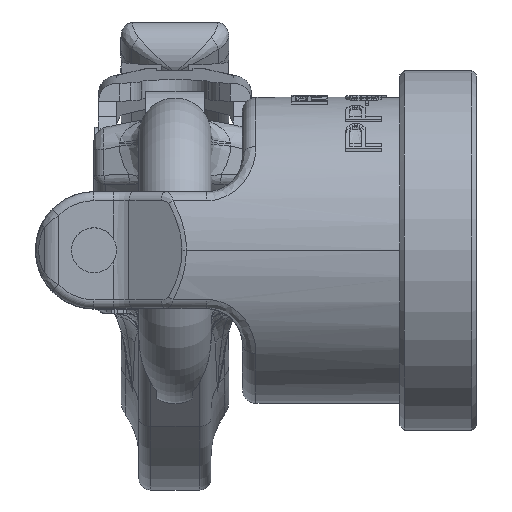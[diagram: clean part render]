
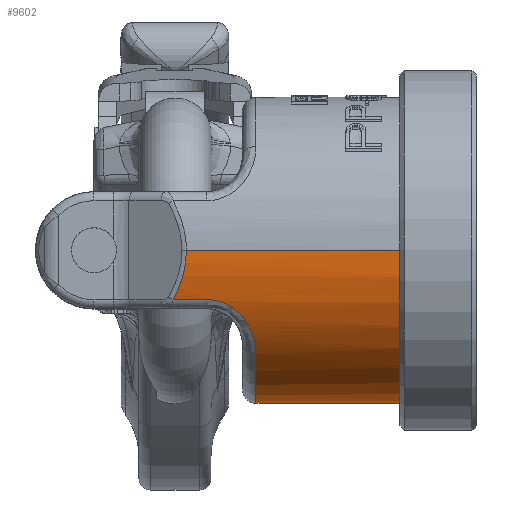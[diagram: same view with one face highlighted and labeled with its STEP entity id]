
A CAD part, top view. The second image highlights one B-rep face of the part: STEP entity #9602.
In plain terms, the highlighted cylindrical face has radius 17 mm (diameter 34 mm), a partial arc.
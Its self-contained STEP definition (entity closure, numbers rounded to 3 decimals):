
#6=CARTESIAN_POINT('',(43.,0.,0.));
#7=DIRECTION('',(1.,0.,0.));
#8=DIRECTION('',(0.,0.,1.));
#9=AXIS2_PLACEMENT_3D('',#6,#7,#8);
#1147=CARTESIAN_POINT('',(16.768,0.,
-17.));
#1155=DIRECTION('',(1.,0.,0.));
#1156=VECTOR('',#1155,26.232);
#1157=CARTESIAN_POINT('',(16.768,0.,
-17.));
#1158=LINE('',#1157,#1156);
#1821=CARTESIAN_POINT('',(15.286,-5.484,
-16.091));
#1822=CARTESIAN_POINT('',(15.552,-5.005,
-16.254));
#1823=CARTESIAN_POINT('',(16.004,-4.051,
-16.532));
#1824=CARTESIAN_POINT('',(16.457,-2.662,
-16.809));
#1825=CARTESIAN_POINT('',(16.714,-1.312,
-16.967));
#1826=CARTESIAN_POINT('',(16.768,-0.432,
-17.));
#1827=CARTESIAN_POINT('',(16.768,0.,
-17.));
#1829=DIRECTION('',(-1.,0.,0.));
#1830=VECTOR('',#1829,3.714);
#1831=CARTESIAN_POINT('',(19.,-5.484,
-16.091));
#1832=LINE('',#1831,#1830);
#1833=CARTESIAN_POINT('',(24.5,-11.516,
-12.505));
#1834=CARTESIAN_POINT('',(24.5,-11.126,
-12.864));
#1835=CARTESIAN_POINT('',(24.435,-10.343,
-13.521));
#1836=CARTESIAN_POINT('',(24.083,-9.098,
-14.383));
#1837=CARTESIAN_POINT('',(23.541,-8.045,
-14.989));
#1838=CARTESIAN_POINT('',(22.831,-7.134,
-15.44));
#1839=CARTESIAN_POINT('',(21.99,-6.409,
-15.75));
#1840=CARTESIAN_POINT('',(21.048,-5.878,
-15.954));
#1841=CARTESIAN_POINT('',(20.036,-5.555,
-16.067));
#1842=CARTESIAN_POINT('',(19.349,-5.484,
-16.091));
#1843=CARTESIAN_POINT('',(19.,-5.484,
-16.091));
#1845=CARTESIAN_POINT('',(24.5,0.,0.));
#1846=DIRECTION('',(1.,0.,0.));
#1847=DIRECTION('',(0.,-0.677,0.736));
#1848=AXIS2_PLACEMENT_3D('',#1845,#1846,#1847);
#1850=CARTESIAN_POINT('',(19.,-5.484,16.091));
#1851=CARTESIAN_POINT('',(19.349,-5.484,16.091));
#1852=CARTESIAN_POINT('',(20.036,-5.555,16.067));
#1853=CARTESIAN_POINT('',(21.051,-5.879,15.953));
#1854=CARTESIAN_POINT('',(21.993,-6.411,15.75));
#1855=CARTESIAN_POINT('',(22.835,-7.138,15.438));
#1856=CARTESIAN_POINT('',(23.545,-8.051,14.986));
#1857=CARTESIAN_POINT('',(24.087,-9.108,14.376));
#1858=CARTESIAN_POINT('',(24.437,-10.353,13.514));
#1859=CARTESIAN_POINT('',(24.5,-11.13,12.86));
#1860=CARTESIAN_POINT('',(24.5,-11.516,12.505));
#1862=DIRECTION('',(1.,0.,0.));
#1863=VECTOR('',#1862,3.714);
#1864=CARTESIAN_POINT('',(15.286,-5.484,16.091));
#1865=LINE('',#1864,#1863);
#1866=CARTESIAN_POINT('',(16.768,0.,17.));
#1867=CARTESIAN_POINT('',(16.768,-0.438,
17.));
#1868=CARTESIAN_POINT('',(16.712,-1.326,16.966));
#1869=CARTESIAN_POINT('',(16.456,-2.667,16.808));
#1870=CARTESIAN_POINT('',(16.003,-4.054,16.531));
#1871=CARTESIAN_POINT('',(15.552,-5.006,16.254));
#1872=CARTESIAN_POINT('',(15.286,-5.484,16.091));
#1874=DIRECTION('',(1.,0.,0.));
#1875=VECTOR('',#1874,26.232);
#1876=CARTESIAN_POINT('',(16.768,0.,17.));
#1877=LINE('',#1876,#1875);
#3032=CARTESIAN_POINT('',(15.286,-5.484,
-16.091));
#6515=CARTESIAN_POINT('',(43.,0.,-17.));
#6516=CARTESIAN_POINT('',(43.,0.,17.));
#6517=VERTEX_POINT('',#6515);
#6518=VERTEX_POINT('',#6516);
#6521=VERTEX_POINT('',#1833);
#6522=VERTEX_POINT('',#1843);
#6533=VERTEX_POINT('',#1850);
#6534=VERTEX_POINT('',#1860);
#7057=VERTEX_POINT('',#1147);
#7072=VERTEX_POINT('',#3032);
#7075=VERTEX_POINT('',#1866);
#7076=VERTEX_POINT('',#1872);
#9578=CARTESIAN_POINT('',(0.,0.,0.));
#9579=DIRECTION('',(1.,0.,0.));
#9580=DIRECTION('',(0.,0.,-1.));
#9581=AXIS2_PLACEMENT_3D('',#9578,#9579,#9580);
#9582=CYLINDRICAL_SURFACE('',#9581,17.);
#9584=ORIENTED_EDGE('',*,*,#9583,.F.);
#9586=ORIENTED_EDGE('',*,*,#9585,.F.);
#9588=ORIENTED_EDGE('',*,*,#9587,.F.);
#9590=ORIENTED_EDGE('',*,*,#9589,.F.);
#9592=ORIENTED_EDGE('',*,*,#9591,.F.);
#9594=ORIENTED_EDGE('',*,*,#9593,.F.);
#9596=ORIENTED_EDGE('',*,*,#9595,.F.);
#9597=ORIENTED_EDGE('',*,*,#7797,.T.);
#9598=ORIENTED_EDGE('',*,*,#7782,.T.);
#9599=ORIENTED_EDGE('',*,*,#7794,.F.);
#9600=EDGE_LOOP('',(#9584,#9586,#9588,#9590,#9592,#9594,#9596,#9597,#9598,
#9599));
#9601=FACE_OUTER_BOUND('',#9600,.F.);
#9602=ADVANCED_FACE('',(#9601),#9582,.T.);
#10=CIRCLE('',#9,17.);
#1828=B_SPLINE_CURVE_WITH_KNOTS('',3,(#1821,#1822,#1823,#1824,#1825,#1826,
#1827),.UNSPECIFIED.,.F.,.F.,(4,1,1,1,4),(0.,0.25,0.5,0.75,1.),
.UNSPECIFIED.);
#1844=B_SPLINE_CURVE_WITH_KNOTS('',3,(#1833,#1834,#1835,#1836,#1837,#1838,#1839,
#1840,#1841,#1842,#1843),.UNSPECIFIED.,.F.,.F.,(4,1,1,1,1,1,1,1,4),(0.,
0.125,0.25,0.375,0.5,0.625,0.75,0.875,1.),.UNSPECIFIED.);
#1849=CIRCLE('',#1848,17.);
#1861=B_SPLINE_CURVE_WITH_KNOTS('',3,(#1850,#1851,#1852,#1853,#1854,#1855,#1856,
#1857,#1858,#1859,#1860),.UNSPECIFIED.,.F.,.F.,(4,1,1,1,1,1,1,1,4),(0.,
0.125,0.25,0.375,0.5,0.625,0.75,0.875,1.),.UNSPECIFIED.);
#1873=B_SPLINE_CURVE_WITH_KNOTS('',3,(#1866,#1867,#1868,#1869,#1870,#1871,
#1872),.UNSPECIFIED.,.F.,.F.,(4,1,1,1,4),(0.,0.25,0.5,0.75,1.),
.UNSPECIFIED.);
#7782=EDGE_CURVE('',#6518,#6517,#10,.T.);
#7794=EDGE_CURVE('',#7057,#6517,#1158,.T.);
#7797=EDGE_CURVE('',#7075,#6518,#1877,.T.);
#9583=EDGE_CURVE('',#7072,#7057,#1828,.T.);
#9585=EDGE_CURVE('',#6522,#7072,#1832,.T.);
#9587=EDGE_CURVE('',#6521,#6522,#1844,.T.);
#9589=EDGE_CURVE('',#6534,#6521,#1849,.T.);
#9591=EDGE_CURVE('',#6533,#6534,#1861,.T.);
#9593=EDGE_CURVE('',#7076,#6533,#1865,.T.);
#9595=EDGE_CURVE('',#7075,#7076,#1873,.T.);
